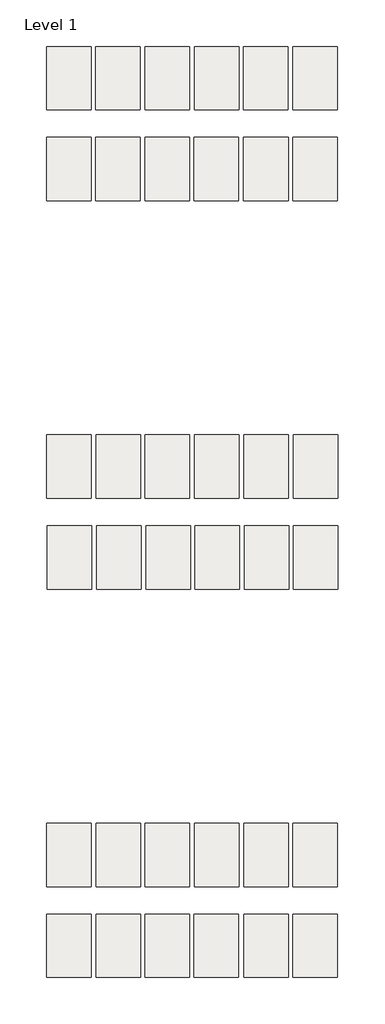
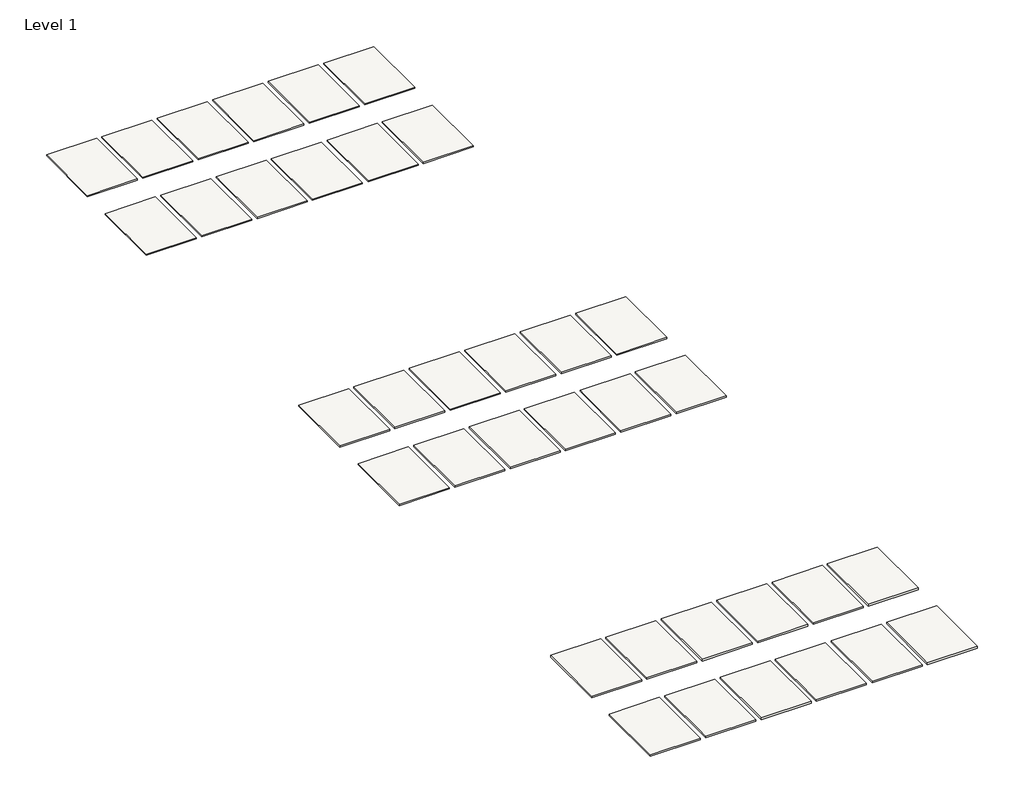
# One storey: 36 slabs.
"""IFC4 building model written with IfcOpenShell, lengths in millimetres."""

from ifc_helpers import new_model, si_unit, frame, origin, place, context, project, spatial, polyline, outline, extrude, element, save

model = new_model("IFC4")

# Units and contexts
model_context = context("Model", 3, world=origin())
ifc_project = project(units=[si_unit("LENGTHUNIT", "METRE", prefix="MILLI")], contexts=[model_context])

# Site, building, storey
site = spatial("IfcSite", under=ifc_project)
building = spatial("IfcBuilding", under=site)
storey = spatial("IfcBuildingStorey", under=building, Name="Level 1", Elevation=0.0)

# Slabs
placement = place(None, origin())
element("IfcSlab", 1, ObjectType="Edgewood Solstice DLX 90 Tile - 8mm Thick Luna", at=placement, inside=storey, context=model_context, shape_type="SweptSolid", body=[
    extrude(outline(polyline([(-12365.8724329, 3443.2124735), (-12365.8724329, 3938.5124735), (-12016.6224329, 3938.5124735), (-12016.6224329, 3443.2124735), (-12365.8724329, 3443.2124735)])), frame((0.0, 0.0, -8.0000003), z_axis=(0.0, 0.0, 1.0), x_axis=(1.0, 0.0, 0.0)), (0.0, 0.0, 1.0), 8.0000003),
])
element("IfcSlab", 2, ObjectType="Edgewood Solstice DLX 90 Tile - 8mm Thick Terra", at=placement, inside=storey, context=model_context, shape_type="SweptSolid", body=[
    extrude(outline(polyline([(-11978.5224329, 3443.2124735), (-11978.5224329, 3938.5124735), (-11629.2724329, 3938.5124735), (-11629.2724329, 3443.2124735), (-11978.5224329, 3443.2124735)])), frame((0.0, 0.0, -8.0000003), z_axis=(0.0, 0.0, 1.0), x_axis=(1.0, 0.0, 0.0)), (0.0, 0.0, 1.0), 8.0000003),
])
element("IfcSlab", 3, ObjectType="Edgewood Solstice DLX 90 Tile - 8mm Thick Dia", at=placement, inside=storey, context=model_context, shape_type="SweptSolid", body=[
    extrude(outline(polyline([(-11591.1724329, 3443.2124735), (-11591.1724329, 3938.5124735), (-11241.9224329, 3938.5124735), (-11241.9224329, 3443.2124735), (-11591.1724329, 3443.2124735)])), frame((0.0, 0.0, -8.0000003), z_axis=(0.0, 0.0, 1.0), x_axis=(1.0, 0.0, 0.0)), (0.0, 0.0, 1.0), 8.0000003),
])
element("IfcSlab", 4, ObjectType="Edgewood Solstice DLX 90 Tile - 8mm Thick Juno", at=placement, inside=storey, context=model_context, shape_type="SweptSolid", body=[
    extrude(outline(polyline([(-11203.8224329, 3443.2124735), (-11203.8224329, 3938.5124735), (-10854.5724329, 3938.5124735), (-10854.5724329, 3443.2124735), (-11203.8224329, 3443.2124735)])), frame((0.0, 0.0, -8.0000003), z_axis=(0.0, 0.0, 1.0), x_axis=(1.0, 0.0, 0.0)), (0.0, 0.0, 1.0), 8.0000003),
])
element("IfcSlab", 5, ObjectType="Edgewood Solstice DLX 90 Tile - 8mm Thick Scout", at=placement, inside=storey, context=model_context, shape_type="SweptSolid", body=[
    extrude(outline(polyline([(-10816.4724329, 3443.2124735), (-10816.4724329, 3938.5124735), (-10467.2224329, 3938.5124735), (-10467.2224329, 3443.2124735), (-10816.4724329, 3443.2124735)])), frame((0.0, 0.0, -8.0000003), z_axis=(0.0, 0.0, 1.0), x_axis=(1.0, 0.0, 0.0)), (0.0, 0.0, 1.0), 8.0000003),
])
element("IfcSlab", 6, ObjectType="Edgewood Solstice DLX 90 Tile - 8mm Thick Barrel", at=placement, inside=storey, context=model_context, shape_type="SweptSolid", body=[
    extrude(outline(polyline([(-12753.0958024, 2729.7187541), (-12753.0958024, 3225.0187541), (-12403.8458024, 3225.0187541), (-12403.8458024, 2729.7187541), (-12753.0958024, 2729.7187541)])), frame((0.0, 0.0, -8.0000003), z_axis=(0.0, 0.0, 1.0), x_axis=(1.0, 0.0, 0.0)), (0.0, 0.0, 1.0), 8.0000003),
])
element("IfcSlab", 7, ObjectType="Edgewood Solstice DLX 90 Tile - 8mm Thick Arctas", at=placement, inside=storey, context=model_context, shape_type="SweptSolid", body=[
    extrude(outline(polyline([(-12365.7458024, 2729.7187541), (-12365.7458024, 3225.0187541), (-12016.4958024, 3225.0187541), (-12016.4958024, 2729.7187541), (-12365.7458024, 2729.7187541)])), frame((0.0, 0.0, -8.0000003), z_axis=(0.0, 0.0, 1.0), x_axis=(1.0, 0.0, 0.0)), (0.0, 0.0, 1.0), 8.0000003),
])
element("IfcSlab", 8, ObjectType="Edgewood Solstice DLX 90 Tile - 8mm Thick Skylark", at=placement, inside=storey, context=model_context, shape_type="SweptSolid", body=[
    extrude(outline(polyline([(-11978.3958024, 2729.7187541), (-11978.3958024, 3225.0187541), (-11629.1458024, 3225.0187541), (-11629.1458024, 2729.7187541), (-11978.3958024, 2729.7187541)])), frame((0.0, 0.0, -8.0000003), z_axis=(0.0, 0.0, 1.0), x_axis=(1.0, 0.0, 0.0)), (0.0, 0.0, 1.0), 8.0000003),
])
element("IfcSlab", 9, ObjectType="Edgewood Solstice DLX 90 Tile - 8mm Thick Mars", at=placement, inside=storey, context=model_context, shape_type="SweptSolid", body=[
    extrude(outline(polyline([(-11594.2208024, 2729.7187541), (-11594.2208024, 3225.0187541), (-11244.9708024, 3225.0187541), (-11244.9708024, 2729.7187541), (-11594.2208024, 2729.7187541)])), frame((0.0, 0.0, -8.0000003), z_axis=(0.0, 0.0, 1.0), x_axis=(1.0, 0.0, 0.0)), (0.0, 0.0, 1.0), 8.0000003),
])
element("IfcSlab", 10, ObjectType="Edgewood Solstice DLX 90 Tile - 8mm Thick Fenrir", at=placement, inside=storey, context=model_context, shape_type="SweptSolid", body=[
    extrude(outline(polyline([(-11203.6958024, 2729.7187541), (-11203.6958024, 3225.0187541), (-10854.4458024, 3225.0187541), (-10854.4458024, 2729.7187541), (-11203.6958024, 2729.7187541)])), frame((0.0, 0.0, -8.0000003), z_axis=(0.0, 0.0, 1.0), x_axis=(1.0, 0.0, 0.0)), (0.0, 0.0, 1.0), 8.0000003),
])
element("IfcSlab", 11, ObjectType="Edgewood Solstice DLX 90 Tile - 8mm Thick Kore", at=placement, inside=storey, context=model_context, shape_type="SweptSolid", body=[
    extrude(outline(polyline([(-10817.9333024, 2729.7187541), (-10817.9333024, 3225.0187541), (-10468.6833024, 3225.0187541), (-10468.6833024, 2729.7187541), (-10817.9333024, 2729.7187541)])), frame((0.0, 0.0, -8.0000003), z_axis=(0.0, 0.0, 1.0), x_axis=(1.0, 0.0, 0.0)), (0.0, 0.0, 1.0), 8.0000003),
])
element("IfcSlab", 12, ObjectType="Edgewood Solstice DLX 90 Tile - 10mm Thick Kore", at=placement, inside=storey, context=model_context, shape_type="SweptSolid", body=[
    extrude(outline(polyline([(-10811.5833024, -318.2812459), (-10811.5833024, 177.0187541), (-10462.3333024, 177.0187541), (-10462.3333024, -318.2812459), (-10811.5833024, -318.2812459)])), frame((0.0, 0.0, -10.0000003), z_axis=(0.0, 0.0, 1.0), x_axis=(1.0, 0.0, 0.0)), (0.0, 0.0, 1.0), 10.0000003),
])
element("IfcSlab", 13, ObjectType="Edgewood Solstice DLX 90 Tile - 10mm Thick Ersa", at=placement, inside=storey, context=model_context, shape_type="SweptSolid", body=[
    extrude(outline(polyline([(-12750.0474329, 395.2124735), (-12750.0474329, 890.5124735), (-12400.7974329, 890.5124735), (-12400.7974329, 395.2124735), (-12750.0474329, 395.2124735)])), frame((0.0, 0.0, -10.0000003), z_axis=(0.0, 0.0, 1.0), x_axis=(1.0, 0.0, 0.0)), (0.0, 0.0, 1.0), 10.0000003),
])
element("IfcSlab", 14, ObjectType="Edgewood Solstice DLX 90 Tile - 10mm Thick Luna", at=placement, inside=storey, context=model_context, shape_type="SweptSolid", body=[
    extrude(outline(polyline([(-12364.2849329, 395.2124735), (-12364.2849329, 890.5124735), (-12015.0349329, 890.5124735), (-12015.0349329, 395.2124735), (-12364.2849329, 395.2124735)])), frame((0.0, 0.0, -10.0000003), z_axis=(0.0, 0.0, 1.0), x_axis=(1.0, 0.0, 0.0)), (0.0, 0.0, 1.0), 10.0000003),
])
element("IfcSlab", 15, ObjectType="Edgewood Solstice DLX 90 Tile - 10mm Thick Terra", at=placement, inside=storey, context=model_context, shape_type="SweptSolid", body=[
    extrude(outline(polyline([(-11976.9349329, 395.2124735), (-11976.9349329, 890.5124735), (-11627.6849329, 890.5124735), (-11627.6849329, 395.2124735), (-11976.9349329, 395.2124735)])), frame((0.0, 0.0, -10.0000003), z_axis=(0.0, 0.0, 1.0), x_axis=(1.0, 0.0, 0.0)), (0.0, 0.0, 1.0), 10.0000003),
])
element("IfcSlab", 16, ObjectType="Edgewood Solstice DLX 90 Tile - 10mm Thick Dia", at=placement, inside=storey, context=model_context, shape_type="SweptSolid", body=[
    extrude(outline(polyline([(-11589.5849329, 395.2124735), (-11589.5849329, 890.5124735), (-11240.3349329, 890.5124735), (-11240.3349329, 395.2124735), (-11589.5849329, 395.2124735)])), frame((0.0, 0.0, -10.0000003), z_axis=(0.0, 0.0, 1.0), x_axis=(1.0, 0.0, 0.0)), (0.0, 0.0, 1.0), 10.0000003),
])
element("IfcSlab", 17, ObjectType="Edgewood Solstice DLX 90 Tile - 10mm Thick Juno", at=placement, inside=storey, context=model_context, shape_type="SweptSolid", body=[
    extrude(outline(polyline([(-11202.2349329, 395.2124735), (-11202.2349329, 890.5124735), (-10852.9849329, 890.5124735), (-10852.9849329, 395.2124735), (-11202.2349329, 395.2124735)])), frame((0.0, 0.0, -10.0000003), z_axis=(0.0, 0.0, 1.0), x_axis=(1.0, 0.0, 0.0)), (0.0, 0.0, 1.0), 10.0000003),
])
element("IfcSlab", 18, ObjectType="Edgewood Solstice DLX 90 Tile - 10mm Thick Scout", at=placement, inside=storey, context=model_context, shape_type="SweptSolid", body=[
    extrude(outline(polyline([(-10814.8849329, 395.2124735), (-10814.8849329, 890.5124735), (-10465.6349329, 890.5124735), (-10465.6349329, 395.2124735), (-10814.8849329, 395.2124735)])), frame((0.0, 0.0, -10.0000003), z_axis=(0.0, 0.0, 1.0), x_axis=(1.0, 0.0, 0.0)), (0.0, 0.0, 1.0), 10.0000003),
])
element("IfcSlab", 19, ObjectType="Edgewood Solstice DLX 90 Tile - 10mm Thick Barrel", at=placement, inside=storey, context=model_context, shape_type="SweptSolid", body=[
    extrude(outline(polyline([(-12746.7458024, -318.2812459), (-12746.7458024, 177.0187541), (-12397.4958024, 177.0187541), (-12397.4958024, -318.2812459), (-12746.7458024, -318.2812459)])), frame((0.0, 0.0, -10.0000003), z_axis=(0.0, 0.0, 1.0), x_axis=(1.0, 0.0, 0.0)), (0.0, 0.0, 1.0), 10.0000003),
])
element("IfcSlab", 20, ObjectType="Edgewood Solstice DLX 90 Tile - 10mm Thick Arctas", at=placement, inside=storey, context=model_context, shape_type="SweptSolid", body=[
    extrude(outline(polyline([(-12359.3958024, -318.2812459), (-12359.3958024, 177.0187541), (-12010.1458024, 177.0187541), (-12010.1458024, -318.2812459), (-12359.3958024, -318.2812459)])), frame((0.0, 0.0, -10.0000003), z_axis=(0.0, 0.0, 1.0), x_axis=(1.0, 0.0, 0.0)), (0.0, 0.0, 1.0), 10.0000003),
])
element("IfcSlab", 21, ObjectType="Edgewood Solstice DLX 90 Tile - 10mm Thick Skylark", at=placement, inside=storey, context=model_context, shape_type="SweptSolid", body=[
    extrude(outline(polyline([(-11972.0458024, -318.2812459), (-11972.0458024, 177.0187541), (-11622.7958024, 177.0187541), (-11622.7958024, -318.2812459), (-11972.0458024, -318.2812459)])), frame((0.0, 0.0, -10.0000003), z_axis=(0.0, 0.0, 1.0), x_axis=(1.0, 0.0, 0.0)), (0.0, 0.0, 1.0), 10.0000003),
])
element("IfcSlab", 22, ObjectType="Edgewood Solstice DLX 90 Tile - 10mm Thick Mars", at=placement, inside=storey, context=model_context, shape_type="SweptSolid", body=[
    extrude(outline(polyline([(-11587.8708024, -318.2812459), (-11587.8708024, 177.0187541), (-11238.6208024, 177.0187541), (-11238.6208024, -318.2812459), (-11587.8708024, -318.2812459)])), frame((0.0, 0.0, -10.0000003), z_axis=(0.0, 0.0, 1.0), x_axis=(1.0, 0.0, 0.0)), (0.0, 0.0, 1.0), 10.0000003),
])
element("IfcSlab", 23, ObjectType="Edgewood Solstice DLX 90 Tile - 10mm Thick Fenrir", at=placement, inside=storey, context=model_context, shape_type="SweptSolid", body=[
    extrude(outline(polyline([(-11197.3458024, -318.2812459), (-11197.3458024, 177.0187541), (-10848.0958024, 177.0187541), (-10848.0958024, -318.2812459), (-11197.3458024, -318.2812459)])), frame((0.0, 0.0, -10.0000003), z_axis=(0.0, 0.0, 1.0), x_axis=(1.0, 0.0, 0.0)), (0.0, 0.0, 1.0), 10.0000003),
])
element("IfcSlab", 24, ObjectType="Edgewood Solstice DLX 90 Tile - 12mm Thick Kore", at=placement, inside=storey, context=model_context, shape_type="SweptSolid", body=[
    extrude(outline(polyline([(-10816.3458024, -3366.2812459), (-10816.3458024, -2870.9812459), (-10467.0958024, -2870.9812459), (-10467.0958024, -3366.2812459), (-10816.3458024, -3366.2812459)])), frame((0.0, 0.0, -12.0000004), z_axis=(0.0, 0.0, 1.0), x_axis=(1.0, 0.0, 0.0)), (0.0, 0.0, 1.0), 12.0000004),
])
element("IfcSlab", 25, ObjectType="Edgewood Solstice DLX 90 Tile - 12mm Thick Ersa", at=placement, inside=storey, context=model_context, shape_type="SweptSolid", body=[
    extrude(outline(polyline([(-12750.0474329, -2652.7875265), (-12750.0474329, -2157.4875265), (-12400.7974329, -2157.4875265), (-12400.7974329, -2652.7875265), (-12750.0474329, -2652.7875265)])), frame((0.0, 0.0, -12.0000004), z_axis=(0.0, 0.0, 1.0), x_axis=(1.0, 0.0, 0.0)), (0.0, 0.0, 1.0), 12.0000004),
])
element("IfcSlab", 26, ObjectType="Edgewood Solstice DLX 90 Tile - 12mm Thick Luna", at=placement, inside=storey, context=model_context, shape_type="SweptSolid", body=[
    extrude(outline(polyline([(-12364.2849329, -2652.7875265), (-12364.2849329, -2157.4875265), (-12015.0349329, -2157.4875265), (-12015.0349329, -2652.7875265), (-12364.2849329, -2652.7875265)])), frame((0.0, 0.0, -12.0000004), z_axis=(0.0, 0.0, 1.0), x_axis=(1.0, 0.0, 0.0)), (0.0, 0.0, 1.0), 12.0000004),
])
element("IfcSlab", 27, ObjectType="Edgewood Solstice DLX 90 Tile - 12mm Thick Terra", at=placement, inside=storey, context=model_context, shape_type="SweptSolid", body=[
    extrude(outline(polyline([(-11976.9349329, -2652.7875265), (-11976.9349329, -2157.4875265), (-11627.6849329, -2157.4875265), (-11627.6849329, -2652.7875265), (-11976.9349329, -2652.7875265)])), frame((0.0, 0.0, -12.0000004), z_axis=(0.0, 0.0, 1.0), x_axis=(1.0, 0.0, 0.0)), (0.0, 0.0, 1.0), 12.0000004),
])
element("IfcSlab", 28, ObjectType="Edgewood Solstice DLX 90 Tile - 12mm Thick Dia", at=placement, inside=storey, context=model_context, shape_type="SweptSolid", body=[
    extrude(outline(polyline([(-11589.5849329, -2652.7875265), (-11589.5849329, -2157.4875265), (-11240.3349329, -2157.4875265), (-11240.3349329, -2652.7875265), (-11589.5849329, -2652.7875265)])), frame((0.0, 0.0, -12.0000004), z_axis=(0.0, 0.0, 1.0), x_axis=(1.0, 0.0, 0.0)), (0.0, 0.0, 1.0), 12.0000004),
])
element("IfcSlab", 29, ObjectType="Edgewood Solstice DLX 90 Tile - 12mm Thick Juno", at=placement, inside=storey, context=model_context, shape_type="SweptSolid", body=[
    extrude(outline(polyline([(-11202.2349329, -2652.7875265), (-11202.2349329, -2157.4875265), (-10852.9849329, -2157.4875265), (-10852.9849329, -2652.7875265), (-11202.2349329, -2652.7875265)])), frame((0.0, 0.0, -12.0000004), z_axis=(0.0, 0.0, 1.0), x_axis=(1.0, 0.0, 0.0)), (0.0, 0.0, 1.0), 12.0000004),
])
element("IfcSlab", 30, ObjectType="Edgewood Solstice DLX 90 Tile - 12mm Thick Scout", at=placement, inside=storey, context=model_context, shape_type="SweptSolid", body=[
    extrude(outline(polyline([(-10817.9333024, -2652.7875265), (-10817.9333024, -2157.4875265), (-10468.6833024, -2157.4875265), (-10468.6833024, -2652.7875265), (-10817.9333024, -2652.7875265)])), frame((0.0, 0.0, -12.0000004), z_axis=(0.0, 0.0, 1.0), x_axis=(1.0, 0.0, 0.0)), (0.0, 0.0, 1.0), 12.0000004),
])
element("IfcSlab", 31, ObjectType="Edgewood Solstice DLX 90 Tile - 12mm Thick Barrel", at=placement, inside=storey, context=model_context, shape_type="SweptSolid", body=[
    extrude(outline(polyline([(-12751.5083024, -3366.2812459), (-12751.5083024, -2870.9812459), (-12402.2583024, -2870.9812459), (-12402.2583024, -3366.2812459), (-12751.5083024, -3366.2812459)])), frame((0.0, 0.0, -12.0000004), z_axis=(0.0, 0.0, 1.0), x_axis=(1.0, 0.0, 0.0)), (0.0, 0.0, 1.0), 12.0000004),
])
element("IfcSlab", 32, ObjectType="Edgewood Solstice DLX 90 Tile - 12mm Thick Arctas", at=placement, inside=storey, context=model_context, shape_type="SweptSolid", body=[
    extrude(outline(polyline([(-12364.1583024, -3366.2812459), (-12364.1583024, -2870.9812459), (-12014.9083024, -2870.9812459), (-12014.9083024, -3366.2812459), (-12364.1583024, -3366.2812459)])), frame((0.0, 0.0, -12.0000004), z_axis=(0.0, 0.0, 1.0), x_axis=(1.0, 0.0, 0.0)), (0.0, 0.0, 1.0), 12.0000004),
])
element("IfcSlab", 33, ObjectType="Edgewood Solstice DLX 90 Tile - 12mm Thick Skylark", at=placement, inside=storey, context=model_context, shape_type="SweptSolid", body=[
    extrude(outline(polyline([(-11976.8083024, -3366.2812459), (-11976.8083024, -2870.9812459), (-11627.5583024, -2870.9812459), (-11627.5583024, -3366.2812459), (-11976.8083024, -3366.2812459)])), frame((0.0, 0.0, -12.0000004), z_axis=(0.0, 0.0, 1.0), x_axis=(1.0, 0.0, 0.0)), (0.0, 0.0, 1.0), 12.0000004),
])
element("IfcSlab", 34, ObjectType="Edgewood Solstice DLX 90 Tile - 12mm Thick Mars", at=placement, inside=storey, context=model_context, shape_type="SweptSolid", body=[
    extrude(outline(polyline([(-11592.6333024, -3366.2812459), (-11592.6333024, -2870.9812459), (-11243.3833024, -2870.9812459), (-11243.3833024, -3366.2812459), (-11592.6333024, -3366.2812459)])), frame((0.0, 0.0, -12.0000004), z_axis=(0.0, 0.0, 1.0), x_axis=(1.0, 0.0, 0.0)), (0.0, 0.0, 1.0), 12.0000004),
])
element("IfcSlab", 35, ObjectType="Edgewood Solstice DLX 90 Tile - 12mm Thick Fenrir", at=placement, inside=storey, context=model_context, shape_type="SweptSolid", body=[
    extrude(outline(polyline([(-11202.1083024, -3366.2812459), (-11202.1083024, -2870.9812459), (-10852.8583024, -2870.9812459), (-10852.8583024, -3366.2812459), (-11202.1083024, -3366.2812459)])), frame((0.0, 0.0, -12.0000004), z_axis=(0.0, 0.0, 1.0), x_axis=(1.0, 0.0, 0.0)), (0.0, 0.0, 1.0), 12.0000004),
])
element("IfcSlab", 36, ObjectType="Edgewood Solstice DLX 90 Tile - 8mm Thick Ersa", at=placement, inside=storey, context=model_context, shape_type="SweptSolid", body=[
    extrude(outline(polyline([(-12751.6349329, 3443.2124735), (-12751.6349329, 3938.5124735), (-12402.3849329, 3938.5124735), (-12402.3849329, 3443.2124735), (-12751.6349329, 3443.2124735)])), frame((0.0, 0.0, -8.0000003), z_axis=(0.0, 0.0, 1.0), x_axis=(1.0, 0.0, 0.0)), (0.0, 0.0, 1.0), 8.0000003),
])

save(model, "model.ifc")
